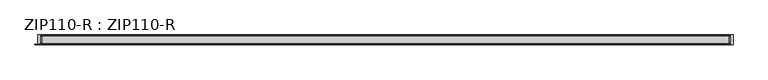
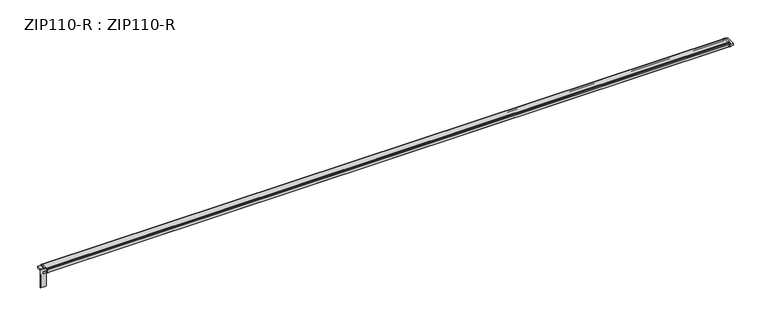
"""IFC4 building model written with IfcOpenShell, lengths in millimetres: proxy geometry, ZIP110-R : ZIP110-R."""

from ifc_helpers import new_model, si_unit, point, frame, frame_2d, origin, place, context, project, spatial, polyline, circle_curve, trimmed, segment, composite_curve, outline, extrude, source, transform, mapped, element, save


def zip110_r_zip110_r_12c8bcc6(model_context):
    return source(origin(), model_context, "Body", "SweptSolid", [
        extrude(outline(polyline([(1983.0, 0.0), (1968.0, 0.0), (1968.0, 55.2300184), (1983.0, 55.2300184), (1983.0, 0.0)])), frame((0.0, 0.0, 81.3142491), z_axis=(0.0, 0.0, 1.0), x_axis=(1.0, 0.0, 0.0)), (0.0, 0.0, 1.0), 11.0704734),
        extrude(outline(polyline([(-1983.0, 0.0), (-1983.0, 55.2300184), (-1968.0, 55.2300184), (-1968.0, 0.0), (-1983.0, 0.0)])), frame((0.0, 0.0, 81.3142491), z_axis=(0.0, 0.0, 1.0), x_axis=(1.0, 0.0, 0.0)), (0.0, 0.0, 1.0), 11.0704734),
        extrude(outline(composite_curve([segment(trimmed(circle_curve(frame_2d((27.7172667, -48.3002848)), 150.0), [point((8.5247175, 100.4668018))], [point((47.4894252, 100.3908775))], False, "CARTESIAN"), True, "CONTINUOUS"), segment(polyline([(47.4894252, 100.3908775), (52.690799, 97.4720803)]), True, "CONTINUOUS"), segment(trimmed(circle_curve(frame_2d((50.7333087, 93.983781)), 4.0), [point((52.690799, 97.4720803))], [point((54.6573134, 94.7597883))], False, "CARTESIAN"), True, "CONTINUOUS"), segment(trimmed(circle_curve(frame_2d((15.4172667, 86.9997152)), 40.0), [point((54.6573134, 94.7597883))], [point((55.4172667, 86.9997152))], False, "CARTESIAN"), True, "CONTINUOUS"), segment(trimmed(circle_curve(frame_2d((15.4172667, 86.9997152)), 40.0), [point((55.4172667, 86.9997152))], [point((54.6573134, 79.2396422))], False, "CARTESIAN"), True, "CONTINUOUS"), segment(trimmed(circle_curve(frame_2d((50.7333087, 80.0156495)), 4.0), [point((54.6573134, 79.2396422))], [point((52.690799, 76.5273502))], False, "CARTESIAN"), True, "CONTINUOUS"), segment(polyline([(52.690799, 76.5273502), (47.4894252, 73.6085529)]), True, "CONTINUOUS"), segment(trimmed(circle_curve(frame_2d((27.7172667, 222.2997152)), 150.0), [point((47.4894252, 73.6085529))], [point((7.9451082, 73.6085529))], False, "CARTESIAN"), True, "CONTINUOUS"), segment(polyline([(7.9451082, 73.6085529), (2.7437344, 76.5273502)]), True, "CONTINUOUS"), segment(trimmed(circle_curve(frame_2d((4.7012246, 80.0156495)), 4.0), [point((2.7437344, 76.5273502))], [point((0.77722, 79.2396422))], False, "CARTESIAN"), True, "CONTINUOUS"), segment(trimmed(circle_curve(frame_2d((40.0172667, 86.9997152)), 40.0), [point((0.77722, 79.2396422))], [point((0.77722, 94.7597883))], False, "CARTESIAN"), True, "CONTINUOUS"), segment(trimmed(circle_curve(frame_2d((4.7012246, 93.983781)), 4.0), [point((0.77722, 94.7597883))], [point((2.7437344, 97.4720803))], False, "CARTESIAN"), True, "CONTINUOUS"), segment(polyline([(2.7437344, 97.4720803), (7.4404509, 100.1076846)]), True, "CONTINUOUS"), segment(trimmed(circle_curve(frame_2d((8.9085685, 97.4914601)), 3.0), [point((7.4404509, 100.1076846))], [point((8.5247175, 100.4668018))], False, "CARTESIAN"), True, "CONTINUOUS")], self_intersect=False)), frame((1961.0, 0.0, 0.0), z_axis=(1.0, 0.0, 0.0), x_axis=(0.0, 1.0, 0.0)), (0.0, 0.0, 1.0), 7.0),
        extrude(outline(composite_curve([segment(trimmed(circle_curve(frame_2d((27.7172667, -48.3002848)), 150.0), [point((8.5247175, 100.4668018))], [point((47.4894252, 100.3908775))], False, "CARTESIAN"), True, "CONTINUOUS"), segment(polyline([(47.4894252, 100.3908775), (52.690799, 97.4720803)]), True, "CONTINUOUS"), segment(trimmed(circle_curve(frame_2d((50.7333087, 93.983781)), 4.0), [point((52.690799, 97.4720803))], [point((54.6573134, 94.7597883))], False, "CARTESIAN"), True, "CONTINUOUS"), segment(trimmed(circle_curve(frame_2d((15.4172667, 86.9997152)), 40.0), [point((54.6573134, 94.7597883))], [point((55.4172667, 86.9997152))], False, "CARTESIAN"), True, "CONTINUOUS"), segment(trimmed(circle_curve(frame_2d((15.4172667, 86.9997152)), 40.0), [point((55.4172667, 86.9997152))], [point((54.6573134, 79.2396422))], False, "CARTESIAN"), True, "CONTINUOUS"), segment(trimmed(circle_curve(frame_2d((50.7333087, 80.0156495)), 4.0), [point((54.6573134, 79.2396422))], [point((52.690799, 76.5273502))], False, "CARTESIAN"), True, "CONTINUOUS"), segment(polyline([(52.690799, 76.5273502), (47.4894252, 73.6085529)]), True, "CONTINUOUS"), segment(trimmed(circle_curve(frame_2d((27.7172667, 222.2997152)), 150.0), [point((47.4894252, 73.6085529))], [point((7.9451082, 73.6085529))], False, "CARTESIAN"), True, "CONTINUOUS"), segment(polyline([(7.9451082, 73.6085529), (2.7437344, 76.5273502)]), True, "CONTINUOUS"), segment(trimmed(circle_curve(frame_2d((4.7012246, 80.0156495)), 4.0), [point((2.7437344, 76.5273502))], [point((0.77722, 79.2396422))], False, "CARTESIAN"), True, "CONTINUOUS"), segment(trimmed(circle_curve(frame_2d((40.0172667, 86.9997152)), 40.0), [point((0.77722, 79.2396422))], [point((0.77722, 94.7597883))], False, "CARTESIAN"), True, "CONTINUOUS"), segment(trimmed(circle_curve(frame_2d((4.7012246, 93.983781)), 4.0), [point((0.77722, 94.7597883))], [point((2.7437344, 97.4720803))], False, "CARTESIAN"), True, "CONTINUOUS"), segment(polyline([(2.7437344, 97.4720803), (7.4404509, 100.1076846)]), True, "CONTINUOUS"), segment(trimmed(circle_curve(frame_2d((8.9085685, 97.4914601)), 3.0), [point((7.4404509, 100.1076846))], [point((8.5247175, 100.4668018))], False, "CARTESIAN"), True, "CONTINUOUS")], self_intersect=False)), frame((-1968.0, 0.0, 0.0), z_axis=(1.0, 0.0, 0.0), x_axis=(0.0, 1.0, 0.0)), (0.0, 0.0, 1.0), 7.0),
        extrude(outline(composite_curve([segment(trimmed(circle_curve(frame_2d((46.5259648, 97.4914601)), 3.0), [point((46.9098158, 100.4668018))], [point((47.9940825, 100.1076846))], False, "CARTESIAN"), True, "CONTINUOUS"), segment(polyline([(47.9940825, 100.1076846), (52.690799, 97.4720803)]), True, "CONTINUOUS"), segment(trimmed(circle_curve(frame_2d((50.7333087, 93.983781)), 4.0), [point((52.690799, 97.4720803))], [point((54.6573134, 94.7597883))], False, "CARTESIAN"), True, "CONTINUOUS"), segment(trimmed(circle_curve(frame_2d((15.4172667, 86.9997152)), 40.0), [point((54.6573134, 94.7597883))], [point((55.1898026, 91.2594555))], False, "CARTESIAN"), True, "CONTINUOUS"), segment(trimmed(circle_curve(frame_2d((53.6983325, 91.0997152)), 1.5), [point((55.1898026, 91.2594555))], [point((53.6983325, 89.5997152))], False, "CARTESIAN"), True, "CONTINUOUS"), segment(polyline([(53.6983325, 89.5997152), (51.763915, 89.5997152)]), True, "CONTINUOUS"), segment(trimmed(circle_curve(frame_2d((46.9172667, 86.9997152)), 5.5), [point((51.763915, 89.5997152))], [point((51.763915, 84.3997152))], True, "CARTESIAN"), True, "CONTINUOUS"), segment(polyline([(51.763915, 84.3997152), (53.6983325, 84.3997152)]), True, "CONTINUOUS"), segment(trimmed(circle_curve(frame_2d((53.6983325, 82.8997152)), 1.5), [point((53.6983325, 84.3997152))], [point((55.1898026, 82.739975))], False, "CARTESIAN"), True, "CONTINUOUS"), segment(trimmed(circle_curve(frame_2d((15.4172667, 86.9997152)), 40.0), [point((55.1898026, 82.739975))], [point((54.6573134, 79.2396422))], False, "CARTESIAN"), True, "CONTINUOUS"), segment(trimmed(circle_curve(frame_2d((50.7333087, 80.0156495)), 4.0), [point((54.6573134, 79.2396422))], [point((52.690799, 76.5273502))], False, "CARTESIAN"), True, "CONTINUOUS"), segment(polyline([(52.690799, 76.5273502), (47.4894252, 73.6085529)]), True, "CONTINUOUS"), segment(trimmed(circle_curve(frame_2d((27.7172667, 222.2997152)), 150.0), [point((47.4894252, 73.6085529))], [point((8.5247175, 73.5326286))], False, "CARTESIAN"), True, "CONTINUOUS"), segment(trimmed(circle_curve(frame_2d((8.9085685, 76.5079704)), 3.0), [point((8.5247175, 73.5326286))], [point((7.4404509, 73.8917459))], False, "CARTESIAN"), True, "CONTINUOUS"), segment(polyline([(7.4404509, 73.8917459), (2.7437344, 76.5273502)]), True, "CONTINUOUS"), segment(trimmed(circle_curve(frame_2d((4.7012246, 80.0156495)), 4.0), [point((2.7437344, 76.5273502))], [point((0.77722, 79.2396422))], False, "CARTESIAN"), True, "CONTINUOUS"), segment(trimmed(circle_curve(frame_2d((40.0172667, 86.9997152)), 40.0), [point((0.77722, 79.2396422))], [point((0.77722, 94.7597883))], False, "CARTESIAN"), True, "CONTINUOUS"), segment(trimmed(circle_curve(frame_2d((4.7012246, 93.983781)), 4.0), [point((0.77722, 94.7597883))], [point((2.7437344, 97.4720803))], False, "CARTESIAN"), True, "CONTINUOUS"), segment(polyline([(2.7437344, 97.4720803), (7.4404509, 100.1076846)]), True, "CONTINUOUS"), segment(trimmed(circle_curve(frame_2d((8.9085685, 97.4914601)), 3.0), [point((7.4404509, 100.1076846))], [point((8.5247175, 100.4668018))], False, "CARTESIAN"), True, "CONTINUOUS"), segment(trimmed(circle_curve(frame_2d((27.7172667, -48.3002848)), 150.0), [point((8.5247175, 100.4668018))], [point((46.9098158, 100.4668018))], False, "CARTESIAN"), True, "CONTINUOUS")], self_intersect=False)), frame((-1961.0, 0.0, 0.0), z_axis=(1.0, 0.0, 0.0), x_axis=(0.0, 1.0, 0.0)), (0.0, 0.0, 1.0), 3922.0),
        extrude(outline(composite_curve([segment(trimmed(circle_curve(frame_2d((2.0857864, -1999.0)), 1.0), [point((3.0857864, -1999.0))], [point((2.0857864, -2000.0))], False, "CARTESIAN"), True, "CONTINUOUS"), segment(polyline([(2.0857864, -2000.0), (1.0, -2000.0)]), True, "CONTINUOUS"), segment(trimmed(circle_curve(frame_2d((1.0, -1999.0)), 1.0), [point((1.0, -2000.0))], [point((0.0, -1999.0))], False, "CARTESIAN"), True, "CONTINUOUS"), segment(polyline([(0.0, -1999.0), (0.0, -1969.0)]), True, "CONTINUOUS"), segment(trimmed(circle_curve(frame_2d((1.0, -1969.0)), 1.0), [point((0.0, -1969.0))], [point((1.0, -1968.0))], False, "CARTESIAN"), True, "CONTINUOUS"), segment(polyline([(1.0, -1968.0), (2.0685346, -1968.0), (7.9507949, -1968.0), (77.4029385, -1968.0), (109.0, -1968.0)]), True, "CONTINUOUS"), segment(trimmed(circle_curve(frame_2d((109.0, -1969.0)), 1.0), [point((109.0, -1968.0))], [point((110.0, -1969.0))], False, "CARTESIAN"), True, "CONTINUOUS"), segment(polyline([(110.0, -1969.0), (110.0, -1999.0)]), True, "CONTINUOUS"), segment(trimmed(circle_curve(frame_2d((109.0, -1999.0)), 1.0), [point((110.0, -1999.0))], [point((109.0, -2000.0))], False, "CARTESIAN"), True, "CONTINUOUS"), segment(polyline([(109.0, -2000.0), (85.2133021, -2000.0), (81.4142136, -2000.0)]), True, "CONTINUOUS"), segment(trimmed(circle_curve(frame_2d((81.4142136, -1999.0)), 1.0), [point((81.4142136, -2000.0))], [point((80.4142136, -1999.0))], False, "CARTESIAN"), True, "CONTINUOUS"), segment(polyline([(80.4142136, -1999.0), (64.25, -1999.0), (64.25, -2000.0), (62.9567252, -2000.0), (62.9567252, -1999.2), (60.138621, -1999.2), (57.0432748, -1999.2), (57.0432748, -2000.0), (55.75, -2000.0), (55.75, -1999.0), (3.0857864, -1999.0)]), True, "CONTINUOUS")], self_intersect=False)), frame((0.0, 0.0, 0.0), z_axis=(0.0, 1.0, 0.0), x_axis=(0.0, 0.0, 1.0)), (0.0, 0.0, 1.0), 2.5),
    ])


if __name__ == "__main__":
    model = new_model("IFC4")
    model_context = context("Model", 3, world=origin())
    ifc_project = project(units=[si_unit("LENGTHUNIT", "METRE", prefix="MILLI")], contexts=[model_context])
    site = spatial("IfcSite", under=ifc_project)
    building = spatial("IfcBuilding", under=site)
    placement = place(None, origin())
    zip110_r_zip110_r_shape = zip110_r_zip110_r_12c8bcc6(model_context)
    element("IfcBuildingElementProxy", 1, Name="ZIP110-R : ZIP110-R", ObjectType="ZIP110-R : ZIP110-R", at=placement, inside=building, context=model_context, shape_type="MappedRepresentation", body=[
        mapped(zip110_r_zip110_r_shape, transform((0.0, 0.0, 0.0), x_axis=(1.0, 0.0, 0.0), y_axis=(0.0, 1.0, 0.0), z_axis=(0.0, 0.0, 1.0))),
    ])
    save(model, "model.ifc")
